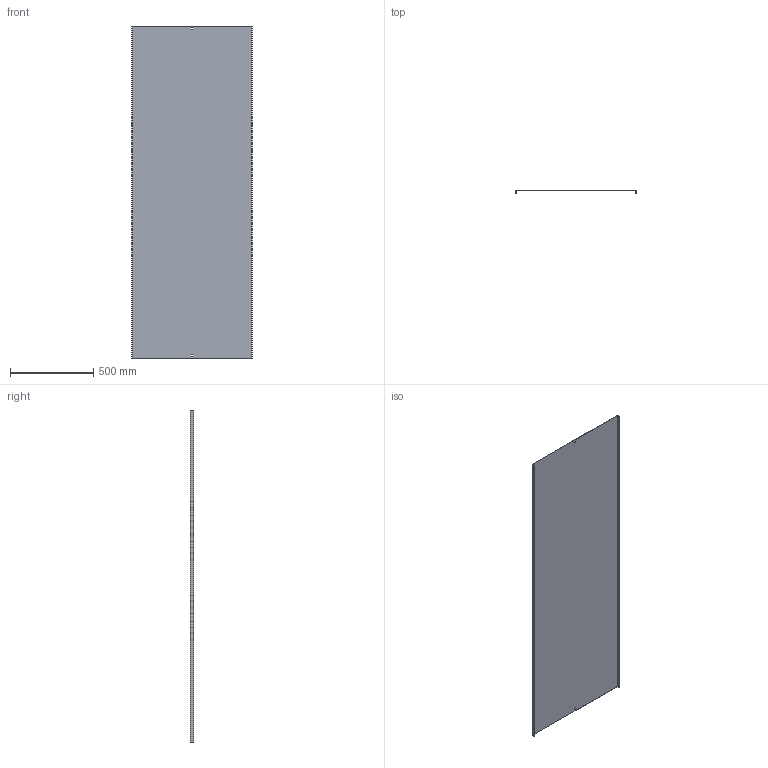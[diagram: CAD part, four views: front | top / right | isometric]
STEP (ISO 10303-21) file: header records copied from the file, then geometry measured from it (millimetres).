
FILE_DESCRIPTION (( 'STEP AP214' ), '1' );
FILE_NAME ('05G2P700.step', '2025-02-21T14:22:04', ( '' ), ( '' ), 'SwSTEP 2.0', 'SolidWorks 2023', '' );
FILE_SCHEMA (( 'AUTOMOTIVE_DESIGN' ));
Length unit declared in the file: millimetre
Products named in the file (1): 05G2P700
Bounding box: 723 x 20 x 2000 mm (x, y, z)
Volume: 2279824.5 mm3; surface area: 3048139 mm2
Topology: 1 solids, 1 shells, 18 faces, 48 edges, 32 vertices
Faces by surface type: plane 18
Entity records: 583 total; most frequent: CARTESIAN_POINT 99, ORIENTED_EDGE 96, DIRECTION 86, EDGE_CURVE 48, LINE 48, VECTOR 48, VERTEX_POINT 32, EDGE_LOOP 22
